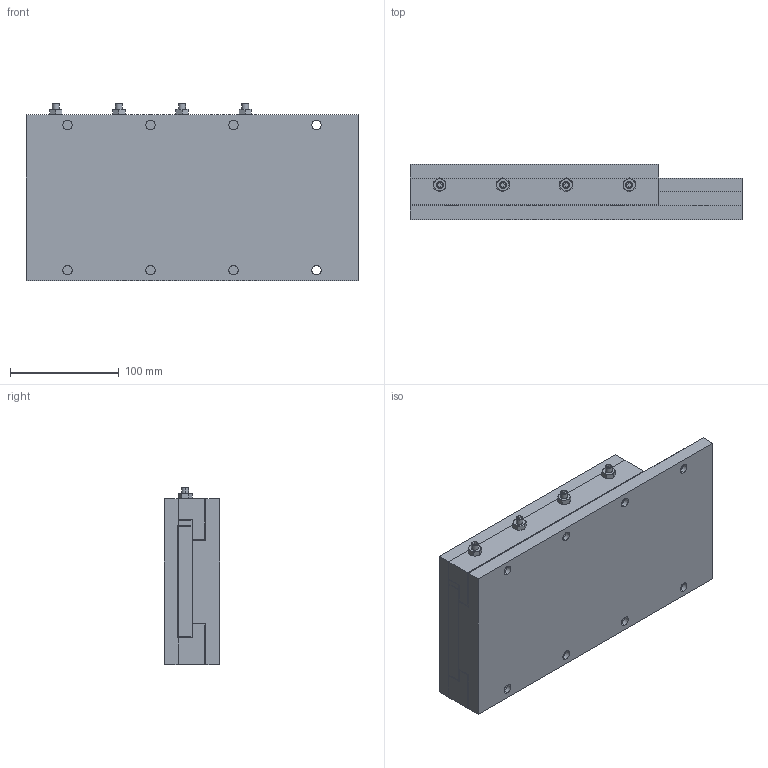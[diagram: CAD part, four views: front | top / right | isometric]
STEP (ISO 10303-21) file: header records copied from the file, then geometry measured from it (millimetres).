
FILE_DESCRIPTION (( 'STEP AP214' ), '1' );
FILE_NAME ('SW06-SL09-BL12.STEP', '2010-10-04T17:49:51', ( ' ' ), ( '' ), 'SwSTEP 2.0', 'SolidWorks 2010', '' );
FILE_SCHEMA (( 'AUTOMOTIVE_DESIGN' ));
Length unit declared in the file: inch
Products named in the file (11): _MSHXNUT_MSHXNUT 0.250-28-D-N; Gen2 Bar_06x09 BAR; Gen2 BASE_06x12 BASE; Gen2 Adj Gib_06x09 ADJ GIB; Gen2 Hardplate_06x12 HPLATE; Gen2 Baseplate_06x12 BASE; _SSCUPSOC_SSCUPSKT 0.25-28x1.25-HX-N; Gen2 SADDLE_06x09 SADDLE; Gen2 Gib_06x09 GIB; Gen2 Top plate_06x09 TPLATE; SW06-SL09-BL12
Assembly tree (16 placements, depth 3):
  SW06-SL09-BL12
    Gen2 BASE_06x12 BASE
      Gen2 Hardplate_06x12 HPLATE
      Gen2 Baseplate_06x12 BASE
    Gen2 SADDLE_06x09 SADDLE
      Gen2 Bar_06x09 BAR
      _SSCUPSOC_SSCUPSKT 0.25-28x1.25-HX-N  x4
      Gen2 Gib_06x09 GIB
      Gen2 Top plate_06x09 TPLATE
      _MSHXNUT_MSHXNUT 0.250-28-D-N  x4
      Gen2 Adj Gib_06x09 ADJ GIB
Bounding box: 304.8 x 50.8 x 162.72 mm (x, y, z)
Volume: 2061296.6 mm3; surface area: 417621.1 mm2
Topology: 19 solids, 19 shells, 322 faces, 720 edges, 444 vertices
Faces by surface type: plane 154, cone 88, cylinder 80
Entity records: 6243 total; most frequent: CARTESIAN_POINT 1040, DIRECTION 970, ORIENTED_EDGE 860, EDGE_CURVE 430, AXIS2_PLACEMENT_3D 353, VERTEX_POINT 279, LINE 264, VECTOR 264
